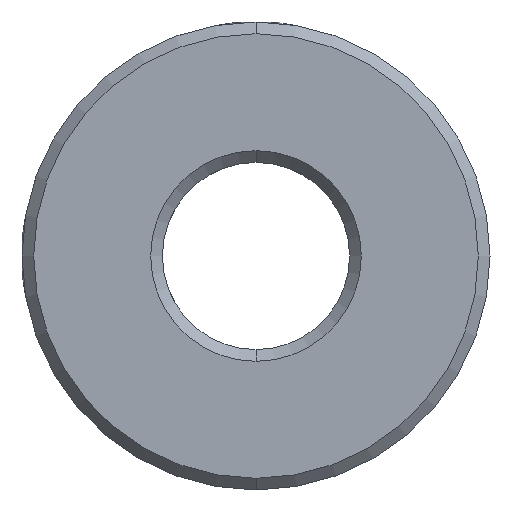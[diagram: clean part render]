
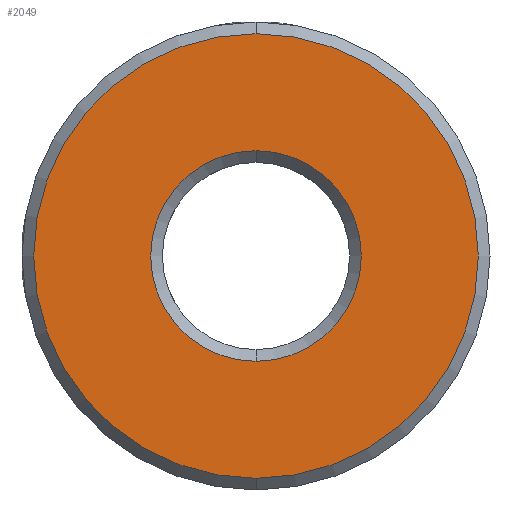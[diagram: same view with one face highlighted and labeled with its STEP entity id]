
A CAD part, front view. The second image highlights one B-rep face of the part: STEP entity #2049.
In plain terms, the highlighted planar face has unit normal (0, -1, 0).
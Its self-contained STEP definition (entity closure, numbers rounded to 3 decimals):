
#148 = VERTEX_POINT ( 'NONE', #2026 ) ;
#187 = DIRECTION ( 'NONE',  ( 0., 1., 0. ) ) ;
#220 = DIRECTION ( 'NONE',  ( 0., -1., 0. ) ) ;
#363 = DIRECTION ( 'NONE',  ( 0., 1., 0. ) ) ;
#365 = ORIENTED_EDGE ( 'NONE', *, *, #3160, .T. ) ;
#415 = VERTEX_POINT ( 'NONE', #1998 ) ;
#430 = CIRCLE ( 'NONE', #1743, 9.5 ) ;
#434 = AXIS2_PLACEMENT_3D ( 'NONE', #1337, #220, #1551 ) ;
#475 = VERTEX_POINT ( 'NONE', #986 ) ;
#477 = CARTESIAN_POINT ( 'NONE',  ( -10.188, -0.277, 9.546 ) ) ;
#608 = AXIS2_PLACEMENT_3D ( 'NONE', #3548, #1056, #3215 ) ;
#638 = CARTESIAN_POINT ( 'NONE',  ( -10.188, -0.277, 0.046 ) ) ;
#806 = PLANE ( 'NONE',  #608 ) ;
#986 = CARTESIAN_POINT ( 'NONE',  ( -10.188, -0.277, -9.454 ) ) ;
#1022 = DIRECTION ( 'NONE',  ( 0., 0., 1. ) ) ;
#1056 = DIRECTION ( 'NONE',  ( 0., 1., 0. ) ) ;
#1177 = CARTESIAN_POINT ( 'NONE',  ( -10.188, -0.277, 0.046 ) ) ;
#1337 = CARTESIAN_POINT ( 'NONE',  ( -10.188, -0.277, 0.046 ) ) ;
#1410 = CIRCLE ( 'NONE', #434, 9.5 ) ;
#1548 = VERTEX_POINT ( 'NONE', #477 ) ;
#1551 = DIRECTION ( 'NONE',  ( 0., 0., 1. ) ) ;
#1673 = ORIENTED_EDGE ( 'NONE', *, *, #2484, .T. ) ;
#1726 = DIRECTION ( 'NONE',  ( 0., 0., 1. ) ) ;
#1743 = AXIS2_PLACEMENT_3D ( 'NONE', #1177, #2616, #2337 ) ;
#1796 = AXIS2_PLACEMENT_3D ( 'NONE', #638, #363, #1726 ) ;
#1965 = EDGE_LOOP ( 'NONE', ( #1673, #365 ) ) ;
#1998 = CARTESIAN_POINT ( 'NONE',  ( -10.188, -0.277, -4.454 ) ) ;
#2026 = CARTESIAN_POINT ( 'NONE',  ( -10.188, -0.277, 4.546 ) ) ;
#2049 = ADVANCED_FACE ( 'NONE', ( #2702, #3234 ), #806, .F. ) ;
#2137 = EDGE_LOOP ( 'NONE', ( #2154, #2921 ) ) ;
#2154 = ORIENTED_EDGE ( 'NONE', *, *, #2371, .T. ) ;
#2268 = CIRCLE ( 'NONE', #2806, 4.5 ) ;
#2337 = DIRECTION ( 'NONE',  ( 0., 0., 1. ) ) ;
#2371 = EDGE_CURVE ( 'NONE', #415, #148, #2430, .T. ) ;
#2430 = CIRCLE ( 'NONE', #1796, 4.5 ) ;
#2484 = EDGE_CURVE ( 'NONE', #1548, #475, #430, .T. ) ;
#2616 = DIRECTION ( 'NONE',  ( 0., -1., 0. ) ) ;
#2619 = EDGE_CURVE ( 'NONE', #148, #415, #2268, .T. ) ;
#2702 = FACE_OUTER_BOUND ( 'NONE', #1965, .T. ) ;
#2806 = AXIS2_PLACEMENT_3D ( 'NONE', #3193, #187, #1022 ) ;
#2921 = ORIENTED_EDGE ( 'NONE', *, *, #2619, .T. ) ;
#3160 = EDGE_CURVE ( 'NONE', #475, #1548, #1410, .T. ) ;
#3193 = CARTESIAN_POINT ( 'NONE',  ( -10.188, -0.277, 0.046 ) ) ;
#3215 = DIRECTION ( 'NONE',  ( 0., 0., 1. ) ) ;
#3234 = FACE_BOUND ( 'NONE', #2137, .T. ) ;
#3548 = CARTESIAN_POINT ( 'NONE',  ( -10.188, -0.277, 0.046 ) ) ;
